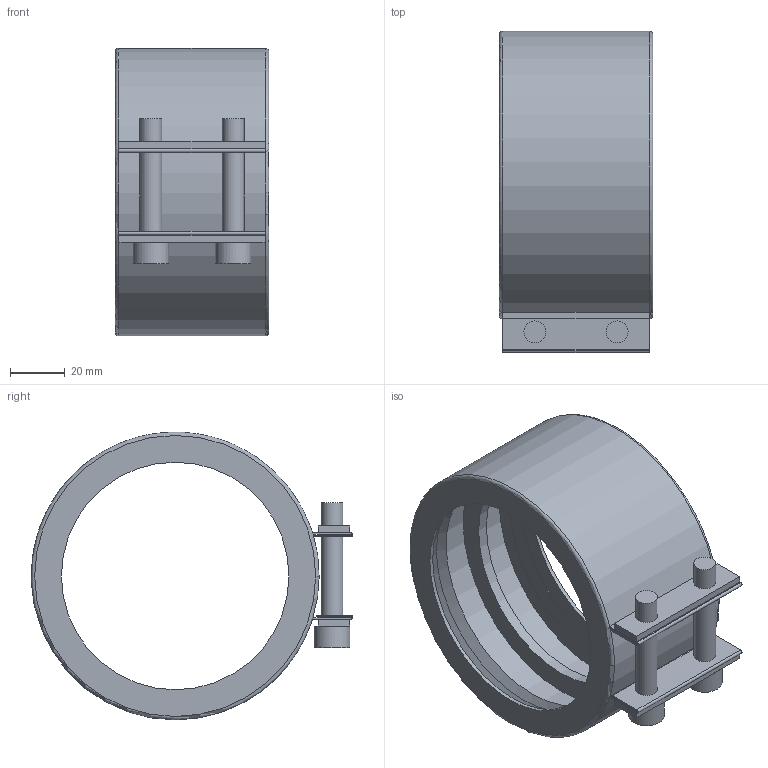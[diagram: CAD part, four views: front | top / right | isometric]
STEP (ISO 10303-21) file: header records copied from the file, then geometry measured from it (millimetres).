
FILE_DESCRIPTION( ( 'STEP AP214' ), '1' );
FILE_NAME( 'C:/Users/ilukic/Documents/ex/gebaudeentwasserung/pe/Geberit adapter clamping connector/359437.stp', '2020-03-26T18:41:17', ( '' ), ( '' ), ' ', 'PARTsolutions', ' ' );
FILE_SCHEMA( ( 'AUTOMOTIVE_DESIGN { 1 0 10303 214 1 1 1 1 }' ) );
Length unit declared in the file: millimetre
Products named in the file (1): _359437
Bounding box: 56 x 117.23 x 104.98 mm (x, y, z)
Volume: 78374 mm3; surface area: 71483.2 mm2
Topology: 1 solids, 1 shells, 121 faces, 309 edges, 202 vertices
Faces by surface type: plane 91, cylinder 22, cone 6, torus 2
Full cylindrical faces by diameter (mm): 8 x8, 13 x2, 83 x1, 84.762 x1, 89 x1, 100.768 x2
Entity records: 4378 total; most frequent: CARTESIAN_POINT 680, DIRECTION 544, ORIENTED_EDGE 536, EDGE_CURVE 268, AXIS2_PLACEMENT_3D 192, VERTEX_POINT 184, EDGE_LOOP 168, LINE 160
